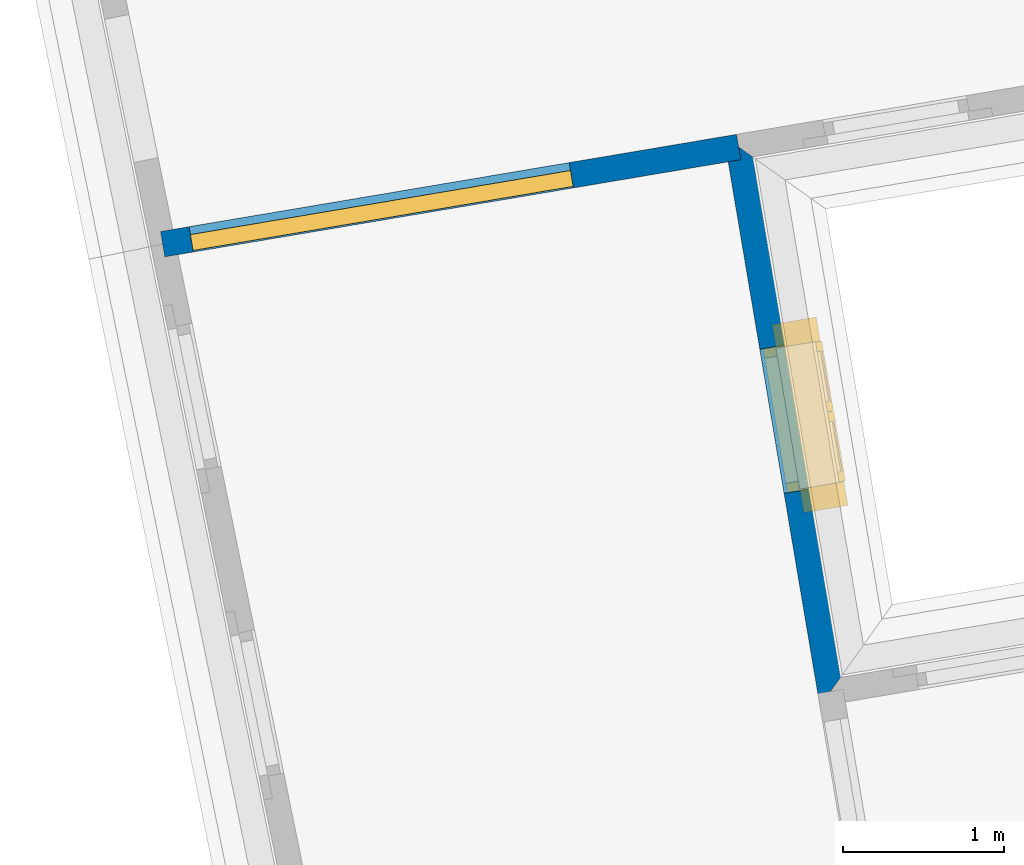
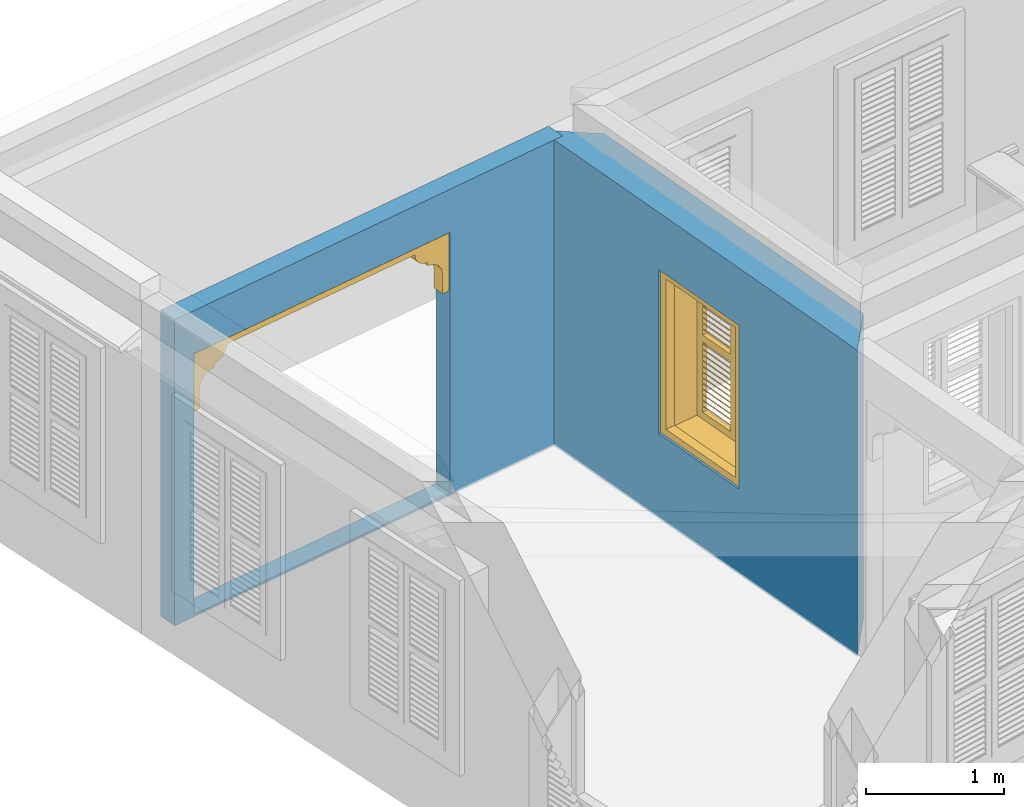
# One storey, part 4 of 12: 2 walls, 1 door, 1 window, 2 openings.
"""IFC4 building model written with IfcOpenShell, lengths in metres."""

from ifc_helpers import new_model, si_unit, frame, origin, origin_with_axes, place, context, subcontext, project, spatial, polyline, outline, extrude, faceted_brep, source, transform, mapped, material, layer, layer_set, layer_usage, type_object, type_shapes, element, fill, save


model = new_model("IFC4")

# Units and contexts
model_context = context("Model", 3, world=origin_with_axes())
body_context = subcontext(model_context, "Body", "Model", "MODEL_VIEW")
ifc_project = project(units=[si_unit("PLANEANGLEUNIT", "RADIAN"), si_unit("MASSUNIT", "GRAM", prefix="KILO"), si_unit("FORCEUNIT", "NEWTON", prefix="KILO"), si_unit("LENGTHUNIT", "METRE"), si_unit("AREAUNIT", "SQUARE_METRE"), si_unit("VOLUMEUNIT", "CUBIC_METRE")], contexts=[model_context, model_context])

# Site, building, storey
site_placement = place(None, origin_with_axes())
site = spatial("IfcSite", under=ifc_project, at=site_placement, Name="Site plot-6", CompositionType="ELEMENT")
building_placement = place(None, origin_with_axes())
building = spatial("IfcBuilding", under=site, at=building_placement, Name="Building plot-6", CompositionType="ELEMENT")
storey_placement = place(None, frame((0.0, 0.0, 3.6), z_axis=(0.0, 0.0, 1.0), x_axis=(1.0, 0.0, 0.0)))
storey = spatial("IfcBuildingStorey", under=building, at=storey_placement, Name="plot-6 1", CompositionType="ELEMENT", Elevation=3.6)

# Wall, opening, window
ifc_material_1 = material(Name="Masonry")
ifc_layer_1 = layer(ifc_material_1, 0.33, ventilated=False)
ifc_layer_set_1 = layer_set([ifc_layer_1], Name="exterior_0.08_0.25")
ifc_layer_usage_1 = layer_usage(ifc_layer_set_1, "AXIS2", "POSITIVE", -0.25)
wall_type_1 = type_object("IfcWallType", Name="exterior_0.08_0.25", PredefinedType="SOLIDWALL", material=ifc_layer_set_1)
wall_1_placement = place(storey_placement, frame((-6.37480768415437, -0.724200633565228, 0.0), z_axis=(0.0, 0.0, 1.0), x_axis=(-0.166292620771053, 0.986076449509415, 0.0)))
wall_1 = element("IfcWall", 1, at=wall_1_placement, inside=storey, type_object=wall_type_1, material=ifc_layer_usage_1, Name="exterior", context=body_context, shape_type="SweptSolid", body=[
    extrude(outline(polyline([(-0.0800000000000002, 0.0799999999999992), (0.25, -0.25), (3.1871885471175, -0.249999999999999), (3.51718854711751, 0.0799999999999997), (-0.0800000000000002, 0.0799999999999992)])), origin_with_axes(), (0.0, 0.0, 1.0), 2.7),
])
opening_1_placement = place(wall_1_placement, frame((1.26359427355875, 0.0, 0.75)))
opening_1 = element("IfcOpeningElement", 2, at=opening_1_placement, cuts=wall_1, Name="My Opening", ObjectType="Opening", context=body_context, shape_type="SweptSolid", body=[
    extrude(outline(polyline([(0.0, -0.27), (0.909999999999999, -0.27), (0.91, 1.1), (0.0, 1.1), (0.0, -0.27)])), origin_with_axes(), (0.0, 0.0, 1.0), 1.445),
])
window_type = type_object("IfcWindowType", Name="shuttered_shorter", PartitioningType="DOUBLE_PANEL_HORIZONTAL", PredefinedType="NOTDEFINED")
shared_shape_1 = source(origin(), body_context, "Body", "Brep", [
    faceted_brep([(0.393, 0.0, 0.622), (0.074, 0.0, 0.622), (0.074, 0.0, 0.632), (0.393, 0.0, 0.632), (0.074, -0.04, 0.592), (0.393, -0.04, 0.592), (0.393, -0.04, 0.582), (0.074, -0.04, 0.582), (0.517, 0.0, 0.682), (0.836, 0.0, 0.682), (0.836, 0.0, 0.672), (0.517, 0.0, 0.672), (0.517, -0.04, 0.642), (0.836, -0.04, 0.642), (0.836, -0.04, 0.632), (0.517, -0.04, 0.632), (0.517, 0.0, 0.632), (0.836, 0.0, 0.632), (0.836, 0.0, 0.622), (0.517, 0.0, 0.622), (0.517, -0.04, 0.592), (0.836, -0.04, 0.592), (0.836, -0.04, 0.582), (0.517, -0.04, 0.582), (0.517, 0.0, 0.232), (0.836, 0.0, 0.232), (0.836, 0.0, 0.222), (0.517, 0.0, 0.222), (0.517, -0.04, 0.192), (0.836, -0.04, 0.192), (0.836, -0.04, 0.182), (0.517, -0.04, 0.182), (0.517, 0.0, 0.532), (0.836, 0.0, 0.532), (0.836, 0.0, 0.522), (0.517, 0.0, 0.522), (0.517, -0.04, 0.492), (0.836, -0.04, 0.492), (0.836, -0.04, 0.482), (0.517, -0.04, 0.482), (0.517, 0.0, 0.482), (0.836, 0.0, 0.482), (0.836, 0.0, 0.472), (0.517, 0.0, 0.472), (0.517, -0.04, 0.442), (0.836, -0.04, 0.442), (0.836, -0.04, 0.432), (0.517, -0.04, 0.432), (0.517, 0.0, 0.582), (0.836, 0.0, 0.582), (0.836, 0.0, 0.572), (0.517, 0.0, 0.572), (0.517, -0.04, 0.542), (0.836, -0.04, 0.542), (0.836, -0.04, 0.532), (0.517, -0.04, 0.532), (0.517, 0.0, 0.182), (0.836, 0.0, 0.182), (0.836, 0.0, 0.172), (0.517, 0.0, 0.172), (0.517, -0.04, 0.142), (0.836, -0.04, 0.142), (0.836, -0.04, 0.132), (0.517, -0.04, 0.132), (0.517, 0.0, 0.382), (0.836, 0.0, 0.382), (0.836, 0.0, 0.372), (0.517, 0.0, 0.372), (0.517, -0.04, 0.342), (0.836, -0.04, 0.342), (0.836, -0.04, 0.332), (0.517, -0.04, 0.332), (0.517, 0.0, 0.432), (0.836, 0.0, 0.432), (0.836, 0.0, 0.422), (0.517, 0.0, 0.422), (0.517, -0.04, 0.392), (0.836, -0.04, 0.392), (0.836, -0.04, 0.382), (0.517, -0.04, 0.382), (0.517, 0.0, 0.132), (0.836, 0.0, 0.132), (0.836, 0.0, 0.122), (0.517, 0.0, 0.122), (0.517, -0.04, 0.092), (0.836, -0.04, 0.092), (0.836, -0.04, 0.082), (0.517, -0.04, 0.082), (0.517, 0.0, 0.282), (0.836, 0.0, 0.282), (0.836, 0.0, 0.272), (0.517, 0.0, 0.272), (0.517, -0.04, 0.242), (0.836, -0.04, 0.242), (0.836, -0.04, 0.232), (0.517, -0.04, 0.232), (0.517, 0.0, 0.332), (0.836, 0.0, 0.332), (0.836, 0.0, 0.322), (0.517, 0.0, 0.322), (0.517, -0.04, 0.292), (0.836, -0.04, 0.292), (0.836, -0.04, 0.282), (0.517, -0.04, 0.282), (0.517, 0.0, 1.362667), (0.836, 0.0, 1.362667), (0.836, 0.0, 1.352667), (0.517, 0.0, 1.352667), (0.517, -0.04, 1.322667), (0.836, -0.04, 1.322667), (0.836, -0.04, 1.312667), (0.517, -0.04, 1.312667), (0.517, 0.0, 1.312667), (0.836, 0.0, 1.312667), (0.836, 0.0, 1.302667), (0.517, 0.0, 1.302667), (0.517, -0.04, 1.272667), (0.836, -0.04, 1.272667), (0.836, -0.04, 1.262667), (0.517, -0.04, 1.262667), (0.517, 0.0, 0.912667), (0.836, 0.0, 0.912667), (0.836, 0.0, 0.902667), (0.517, 0.0, 0.902667), (0.517, -0.04, 0.872667), (0.836, -0.04, 0.872667), (0.836, -0.04, 0.862667), (0.517, -0.04, 0.862667), (0.517, 0.0, 1.212667), (0.836, 0.0, 1.212667), (0.836, 0.0, 1.202667), (0.517, 0.0, 1.202667), (0.517, -0.04, 1.172667), (0.836, -0.04, 1.172667), (0.836, -0.04, 1.162667), (0.517, -0.04, 1.162667), (0.517, 0.0, 1.162667), (0.836, 0.0, 1.162667), (0.836, 0.0, 1.152667), (0.517, 0.0, 1.152667), (0.517, -0.04, 1.122667), (0.836, -0.04, 1.122667), (0.836, -0.04, 1.112667), (0.517, -0.04, 1.112667), (0.517, 0.0, 1.262667), (0.836, 0.0, 1.262667), (0.836, 0.0, 1.252667), (0.517, 0.0, 1.252667), (0.517, -0.04, 1.222667), (0.836, -0.04, 1.222667), (0.836, -0.04, 1.212667), (0.517, -0.04, 1.212667), (0.517, 0.0, 0.862667), (0.836, 0.0, 0.862667), (0.836, 0.0, 0.852667), (0.517, 0.0, 0.852667), (0.517, -0.04, 0.822667), (0.836, -0.04, 0.822667), (0.836, -0.04, 0.812667), (0.517, -0.04, 0.812667), (0.517, 0.0, 1.062667), (0.836, 0.0, 1.062667), (0.836, 0.0, 1.052667), (0.517, 0.0, 1.052667), (0.517, -0.04, 1.022667), (0.836, -0.04, 1.022667), (0.836, -0.04, 1.012667), (0.517, -0.04, 1.012667), (0.517, 0.0, 1.112667), (0.836, 0.0, 1.112667), (0.836, 0.0, 1.102667), (0.517, 0.0, 1.102667), (0.517, -0.04, 1.072667), (0.836, -0.04, 1.072667), (0.836, -0.04, 1.062667), (0.517, -0.04, 1.062667), (0.517, 0.0, 0.812667), (0.836, 0.0, 0.812667), (0.836, 0.0, 0.802667), (0.517, 0.0, 0.802667), (0.517, -0.04, 0.772667), (0.836, -0.04, 0.772667), (0.836, -0.04, 0.762667), (0.517, -0.04, 0.762667), (0.517, 0.0, 0.962667), (0.836, 0.0, 0.962667), (0.836, 0.0, 0.952667), (0.517, 0.0, 0.952667), (0.517, -0.04, 0.922667), (0.836, -0.04, 0.922667), (0.836, -0.04, 0.912667), (0.517, -0.04, 0.912667), (0.517, 0.0, 1.012667), (0.836, 0.0, 1.012667), (0.836, 0.0, 1.002667), (0.517, 0.0, 1.002667), (0.517, -0.04, 0.972667), (0.836, -0.04, 0.972667), (0.836, -0.04, 0.962667), (0.517, -0.04, 0.962667), (0.074, 0.0, 0.682), (0.393, 0.0, 0.682), (0.393, 0.0, 0.672), (0.074, 0.0, 0.672), (0.074, -0.04, 0.642), (0.393, -0.04, 0.642), (0.393, -0.04, 0.632), (0.074, -0.04, 0.632), (0.074, 0.0, 0.232), (0.393, 0.0, 0.232), (0.393, 0.0, 0.222), (0.074, 0.0, 0.222), (0.074, -0.04, 0.192), (0.393, -0.04, 0.192), (0.393, -0.04, 0.182), (0.074, -0.04, 0.182), (0.074, 0.0, 0.532), (0.393, 0.0, 0.532), (0.393, 0.0, 0.522), (0.074, 0.0, 0.522), (0.074, -0.04, 0.492), (0.393, -0.04, 0.492), (0.393, -0.04, 0.482), (0.074, -0.04, 0.482), (0.074, 0.0, 0.482), (0.393, 0.0, 0.482), (0.393, 0.0, 0.472), (0.074, 0.0, 0.472), (0.074, -0.04, 0.442), (0.393, -0.04, 0.442), (0.393, -0.04, 0.432), (0.074, -0.04, 0.432), (0.074, 0.0, 0.582), (0.393, 0.0, 0.582), (0.393, 0.0, 0.572), (0.074, 0.0, 0.572), (0.074, -0.04, 0.542), (0.393, -0.04, 0.542), (0.393, -0.04, 0.532), (0.074, -0.04, 0.532), (0.074, 0.0, 0.182), (0.393, 0.0, 0.182), (0.393, 0.0, 0.172), (0.074, 0.0, 0.172), (0.074, -0.04, 0.142), (0.393, -0.04, 0.142), (0.393, -0.04, 0.132), (0.074, -0.04, 0.132), (0.074, 0.0, 0.382), (0.393, 0.0, 0.382), (0.393, 0.0, 0.372), (0.074, 0.0, 0.372), (0.074, -0.04, 0.342), (0.393, -0.04, 0.342), (0.393, -0.04, 0.332), (0.074, -0.04, 0.332), (0.074, 0.0, 0.432), (0.393, 0.0, 0.432), (0.393, 0.0, 0.422), (0.074, 0.0, 0.422), (0.074, -0.04, 0.392), (0.393, -0.04, 0.392), (0.393, -0.04, 0.382), (0.074, -0.04, 0.382), (0.074, 0.0, 0.132), (0.393, 0.0, 0.132), (0.393, 0.0, 0.122), (0.074, 0.0, 0.122), (0.074, -0.04, 0.092), (0.393, -0.04, 0.092), (0.393, -0.04, 0.082), (0.074, -0.04, 0.082), (0.074, 0.0, 0.282), (0.393, 0.0, 0.282), (0.393, 0.0, 0.272), (0.074, 0.0, 0.272), (0.074, -0.04, 0.242), (0.393, -0.04, 0.242), (0.393, -0.04, 0.232), (0.074, -0.04, 0.232), (0.074, 0.0, 0.332), (0.393, 0.0, 0.332), (0.393, 0.0, 0.322), (0.074, 0.0, 0.322), (0.074, -0.04, 0.292), (0.393, -0.04, 0.292), (0.393, -0.04, 0.282), (0.074, -0.04, 0.282), (0.074, 0.0, 1.362667), (0.393, 0.0, 1.362667), (0.393, 0.0, 1.352667), (0.074, 0.0, 1.352667), (0.074, -0.04, 1.322667), (0.393, -0.04, 1.322667), (0.393, -0.04, 1.312667), (0.074, -0.04, 1.312667), (0.074, 0.0, 1.312667), (0.393, 0.0, 1.312667), (0.393, 0.0, 1.302667), (0.074, 0.0, 1.302667), (0.074, -0.04, 1.272667), (0.393, -0.04, 1.272667), (0.393, -0.04, 1.262667), (0.074, -0.04, 1.262667), (0.074, 0.0, 0.912667), (0.393, 0.0, 0.912667), (0.393, 0.0, 0.902667), (0.074, 0.0, 0.902667), (0.074, -0.04, 0.872667), (0.393, -0.04, 0.872667), (0.393, -0.04, 0.862667), (0.074, -0.04, 0.862667), (0.074, 0.0, 1.212667), (0.393, 0.0, 1.212667), (0.393, 0.0, 1.202667), (0.074, 0.0, 1.202667), (0.074, -0.04, 1.172667), (0.393, -0.04, 1.172667), (0.393, -0.04, 1.162667), (0.074, -0.04, 1.162667), (0.074, 0.0, 1.162667), (0.393, 0.0, 1.162667), (0.393, 0.0, 1.152667), (0.074, 0.0, 1.152667), (0.074, -0.04, 1.122667), (0.393, -0.04, 1.122667), (0.393, -0.04, 1.112667), (0.074, -0.04, 1.112667), (0.074, 0.0, 1.262667), (0.393, 0.0, 1.262667), (0.393, 0.0, 1.252667), (0.074, 0.0, 1.252667), (0.074, -0.04, 1.222667), (0.393, -0.04, 1.222667), (0.393, -0.04, 1.212667), (0.074, -0.04, 1.212667), (0.074, 0.0, 0.862667), (0.393, 0.0, 0.862667), (0.393, 0.0, 0.852667), (0.074, 0.0, 0.852667), (0.074, -0.04, 0.822667), (0.393, -0.04, 0.822667), (0.393, -0.04, 0.812667), (0.074, -0.04, 0.812667), (0.074, 0.0, 1.062667), (0.393, 0.0, 1.062667), (0.393, 0.0, 1.052667), (0.074, 0.0, 1.052667), (0.074, -0.04, 1.022667), (0.393, -0.04, 1.022667), (0.393, -0.04, 1.012667), (0.074, -0.04, 1.012667), (0.074, 0.0, 1.112667), (0.393, 0.0, 1.112667), (0.393, 0.0, 1.102667), (0.074, 0.0, 1.102667), (0.074, -0.04, 1.072667), (0.393, -0.04, 1.072667), (0.393, -0.04, 1.062667), (0.074, -0.04, 1.062667), (0.074, 0.0, 0.812667), (0.393, 0.0, 0.812667), (0.393, 0.0, 0.802667), (0.074, 0.0, 0.802667), (0.074, -0.04, 0.772667), (0.393, -0.04, 0.772667), (0.393, -0.04, 0.762667), (0.074, -0.04, 0.762667), (0.074, 0.0, 0.962667), (0.393, 0.0, 0.962667), (0.393, 0.0, 0.952667), (0.074, 0.0, 0.952667), (0.074, -0.04, 0.922667), (0.393, -0.04, 0.922667), (0.393, -0.04, 0.912667), (0.074, -0.04, 0.912667), (0.074, 0.0, 1.012667), (0.393, 0.0, 1.012667), (0.393, 0.0, 1.002667), (0.074, 0.0, 1.002667), (0.074, -0.04, 0.972667), (0.393, -0.04, 0.972667), (0.393, -0.04, 0.962667), (0.074, -0.04, 0.962667), (0.517, -0.04, 0.072), (0.457, -0.04, 0.012), (0.896, -0.04, 0.012), (0.836, -0.04, 0.072), (0.457, -0.04, 0.692667), (0.517, -0.04, 0.692667), (0.457, 0.0, 0.012), (0.896, 0.0, 0.012), (0.836, -0.04, 0.692667), (0.896, -0.04, 0.692667), (0.836, 0.0, 0.072), (0.517, 0.0, 0.072), (0.457, 0.0, 0.692667), (0.517, 0.0, 0.692667), (0.517, -0.04, 0.752666), (0.457, -0.04, 0.752666), (0.896, 0.0, 0.692667), (0.836, 0.0, 0.692667), (0.836, -0.04, 0.752666), (0.896, -0.04, 0.752666), (0.457, 0.0, 0.752666), (0.457, -0.04, 1.433333), (0.517, -0.04, 1.373333), (0.896, 0.0, 0.752666), (0.836, -0.04, 1.373333), (0.896, -0.04, 1.433333), (0.457, 0.0, 1.433333), (0.517, 0.0, 0.752666), (0.836, 0.0, 0.752666), (0.517, 0.0, 1.373333), (0.896, 0.0, 1.433333), (0.836, 0.0, 1.373333), (0.074, -0.04, 0.072), (0.014, -0.04, 0.012), (0.453, -0.04, 0.012), (0.393, -0.04, 0.072), (0.014, -0.04, 0.692667), (0.074, -0.04, 0.692667), (0.014, 0.0, 0.012), (0.453, 0.0, 0.012), (0.393, -0.04, 0.692667), (0.453, -0.04, 0.692667), (0.393, 0.0, 0.072), (0.074, 0.0, 0.072), (0.014, 0.0, 0.692667), (0.074, 0.0, 0.692667), (0.074, -0.04, 0.752666), (0.014, -0.04, 0.752666), (0.453, 0.0, 0.692667), (0.393, 0.0, 0.692667), (0.393, -0.04, 0.752666), (0.453, -0.04, 0.752666), (0.014, 0.0, 0.752666), (0.014, -0.04, 1.433333), (0.074, -0.04, 1.373333), (0.453, 0.0, 0.752666), (0.393, -0.04, 1.373333), (0.453, -0.04, 1.433333), (0.014, 0.0, 1.433333), (0.074, 0.0, 0.752666), (0.393, 0.0, 0.752666), (0.074, 0.0, 1.373333), (0.453, 0.0, 1.433333), (0.393, 0.0, 1.373333), (0.0, 0.33, 1.445), (0.91, 0.33, 1.445), (0.85, 0.33, 1.385), (0.06, 0.33, 1.385), (0.91, 0.25, 1.445), (0.0, 0.25, 1.445), (0.91, 0.25, 1.445), (0.85, 0.33, 0.06), (0.91, 0.33, 0.0), (0.85, 0.25, 1.385), (0.06, 0.25, 1.385), (0.0, 0.33, 0.0), (0.06, 0.33, 0.06), (0.0, 0.25, 0.0), (0.91, 0.25, 0.0), (0.85, 0.25, 0.06), (0.06, 0.25, 0.06), (1.05, 0.25, 1.585), (-0.14, 0.25, 1.585), (-0.14, -0.03, 1.585), (1.05, -0.03, 1.585), (0.9, -0.03, 1.435), (0.01, -0.03, 1.435), (0.01, 0.25, 1.435), (0.9, 0.25, 1.435), (0.9, 0.25, 0.01), (0.9, -0.03, 0.01), (1.05, -0.03, -0.14), (1.05, 0.25, -0.14), (0.01, -0.03, 0.01), (0.01, 0.25, 0.01), (-0.14, -0.03, -0.14), (-0.14, 0.25, -0.14)], [[[0, 1, 2, 3]], [[4, 5, 3, 2]], [[5, 6, 0, 3]], [[1, 0, 6, 7]], [[2, 1, 7, 4]], [[5, 4, 7, 6]], [[8, 9, 10, 11]], [[12, 13, 9, 8]], [[13, 14, 10, 9]], [[14, 15, 11, 10]], [[15, 12, 8, 11]], [[13, 12, 15, 14]], [[16, 17, 18, 19]], [[20, 21, 17, 16]], [[21, 22, 18, 17]], [[22, 23, 19, 18]], [[23, 20, 16, 19]], [[21, 20, 23, 22]], [[24, 25, 26, 27]], [[28, 29, 25, 24]], [[29, 30, 26, 25]], [[30, 31, 27, 26]], [[31, 28, 24, 27]], [[29, 28, 31, 30]], [[32, 33, 34, 35]], [[36, 37, 33, 32]], [[37, 38, 34, 33]], [[38, 39, 35, 34]], [[39, 36, 32, 35]], [[37, 36, 39, 38]], [[40, 41, 42, 43]], [[44, 45, 41, 40]], [[45, 46, 42, 41]], [[46, 47, 43, 42]], [[47, 44, 40, 43]], [[45, 44, 47, 46]], [[48, 49, 50, 51]], [[52, 53, 49, 48]], [[53, 54, 50, 49]], [[54, 55, 51, 50]], [[55, 52, 48, 51]], [[53, 52, 55, 54]], [[56, 57, 58, 59]], [[60, 61, 57, 56]], [[61, 62, 58, 57]], [[62, 63, 59, 58]], [[63, 60, 56, 59]], [[61, 60, 63, 62]], [[64, 65, 66, 67]], [[68, 69, 65, 64]], [[69, 70, 66, 65]], [[70, 71, 67, 66]], [[71, 68, 64, 67]], [[69, 68, 71, 70]], [[72, 73, 74, 75]], [[76, 77, 73, 72]], [[77, 78, 74, 73]], [[78, 79, 75, 74]], [[79, 76, 72, 75]], [[77, 76, 79, 78]], [[80, 81, 82, 83]], [[84, 85, 81, 80]], [[85, 86, 82, 81]], [[86, 87, 83, 82]], [[87, 84, 80, 83]], [[85, 84, 87, 86]], [[88, 89, 90, 91]], [[92, 93, 89, 88]], [[93, 94, 90, 89]], [[94, 95, 91, 90]], [[95, 92, 88, 91]], [[93, 92, 95, 94]], [[96, 97, 98, 99]], [[100, 101, 97, 96]], [[101, 102, 98, 97]], [[102, 103, 99, 98]], [[103, 100, 96, 99]], [[101, 100, 103, 102]], [[104, 105, 106, 107]], [[108, 109, 105, 104]], [[109, 110, 106, 105]], [[110, 111, 107, 106]], [[111, 108, 104, 107]], [[109, 108, 111, 110]], [[112, 113, 114, 115]], [[116, 117, 113, 112]], [[117, 118, 114, 113]], [[118, 119, 115, 114]], [[119, 116, 112, 115]], [[117, 116, 119, 118]], [[120, 121, 122, 123]], [[124, 125, 121, 120]], [[125, 126, 122, 121]], [[126, 127, 123, 122]], [[127, 124, 120, 123]], [[125, 124, 127, 126]], [[128, 129, 130, 131]], [[132, 133, 129, 128]], [[133, 134, 130, 129]], [[134, 135, 131, 130]], [[135, 132, 128, 131]], [[133, 132, 135, 134]], [[136, 137, 138, 139]], [[140, 141, 137, 136]], [[141, 142, 138, 137]], [[142, 143, 139, 138]], [[139, 143, 140, 136]], [[141, 140, 143, 142]], [[144, 145, 146, 147]], [[148, 149, 145, 144]], [[149, 150, 146, 145]], [[150, 151, 147, 146]], [[151, 148, 144, 147]], [[149, 148, 151, 150]], [[152, 153, 154, 155]], [[156, 157, 153, 152]], [[157, 158, 154, 153]], [[158, 159, 155, 154]], [[159, 156, 152, 155]], [[157, 156, 159, 158]], [[160, 161, 162, 163]], [[164, 165, 161, 160]], [[165, 166, 162, 161]], [[166, 167, 163, 162]], [[167, 164, 160, 163]], [[165, 164, 167, 166]], [[168, 169, 170, 171]], [[172, 173, 169, 168]], [[173, 174, 170, 169]], [[174, 175, 171, 170]], [[175, 172, 168, 171]], [[173, 172, 175, 174]], [[176, 177, 178, 179]], [[180, 181, 177, 176]], [[181, 182, 178, 177]], [[182, 183, 179, 178]], [[183, 180, 176, 179]], [[181, 180, 183, 182]], [[184, 185, 186, 187]], [[188, 189, 185, 184]], [[189, 190, 186, 185]], [[190, 191, 187, 186]], [[191, 188, 184, 187]], [[189, 188, 191, 190]], [[192, 193, 194, 195]], [[196, 197, 193, 192]], [[197, 198, 194, 193]], [[198, 199, 195, 194]], [[199, 196, 192, 195]], [[197, 196, 199, 198]], [[200, 201, 202, 203]], [[204, 205, 201, 200]], [[205, 206, 202, 201]], [[206, 207, 203, 202]], [[207, 204, 200, 203]], [[205, 204, 207, 206]], [[208, 209, 210, 211]], [[212, 213, 209, 208]], [[213, 214, 210, 209]], [[214, 215, 211, 210]], [[215, 212, 208, 211]], [[213, 212, 215, 214]], [[216, 217, 218, 219]], [[220, 221, 217, 216]], [[221, 222, 218, 217]], [[222, 223, 219, 218]], [[223, 220, 216, 219]], [[221, 220, 223, 222]], [[224, 225, 226, 227]], [[228, 229, 225, 224]], [[229, 230, 226, 225]], [[230, 231, 227, 226]], [[231, 228, 224, 227]], [[229, 228, 231, 230]], [[232, 233, 234, 235]], [[236, 237, 233, 232]], [[237, 238, 234, 233]], [[238, 239, 235, 234]], [[239, 236, 232, 235]], [[237, 236, 239, 238]], [[240, 241, 242, 243]], [[244, 245, 241, 240]], [[245, 246, 242, 241]], [[246, 247, 243, 242]], [[247, 244, 240, 243]], [[245, 244, 247, 246]], [[248, 249, 250, 251]], [[252, 253, 249, 248]], [[253, 254, 250, 249]], [[254, 255, 251, 250]], [[255, 252, 248, 251]], [[253, 252, 255, 254]], [[256, 257, 258, 259]], [[260, 261, 257, 256]], [[261, 262, 258, 257]], [[262, 263, 259, 258]], [[263, 260, 256, 259]], [[261, 260, 263, 262]], [[264, 265, 266, 267]], [[268, 269, 265, 264]], [[269, 270, 266, 265]], [[270, 271, 267, 266]], [[271, 268, 264, 267]], [[269, 268, 271, 270]], [[272, 273, 274, 275]], [[276, 277, 273, 272]], [[277, 278, 274, 273]], [[278, 279, 275, 274]], [[279, 276, 272, 275]], [[277, 276, 279, 278]], [[280, 281, 282, 283]], [[284, 285, 281, 280]], [[285, 286, 282, 281]], [[286, 287, 283, 282]], [[287, 284, 280, 283]], [[285, 284, 287, 286]], [[288, 289, 290, 291]], [[292, 293, 289, 288]], [[293, 294, 290, 289]], [[294, 295, 291, 290]], [[295, 292, 288, 291]], [[293, 292, 295, 294]], [[296, 297, 298, 299]], [[300, 301, 297, 296]], [[301, 302, 298, 297]], [[302, 303, 299, 298]], [[303, 300, 296, 299]], [[301, 300, 303, 302]], [[304, 305, 306, 307]], [[308, 309, 305, 304]], [[309, 310, 306, 305]], [[310, 311, 307, 306]], [[311, 308, 304, 307]], [[309, 308, 311, 310]], [[312, 313, 314, 315]], [[316, 317, 313, 312]], [[317, 318, 314, 313]], [[318, 319, 315, 314]], [[319, 316, 312, 315]], [[317, 316, 319, 318]], [[320, 321, 322, 323]], [[324, 325, 321, 320]], [[325, 326, 322, 321]], [[326, 327, 323, 322]], [[327, 324, 320, 323]], [[325, 324, 327, 326]], [[328, 329, 330, 331]], [[332, 333, 329, 328]], [[333, 334, 330, 329]], [[334, 335, 331, 330]], [[335, 332, 328, 331]], [[333, 332, 335, 334]], [[336, 337, 338, 339]], [[340, 341, 337, 336]], [[341, 342, 338, 337]], [[342, 343, 339, 338]], [[343, 340, 336, 339]], [[341, 340, 343, 342]], [[344, 345, 346, 347]], [[348, 349, 345, 344]], [[349, 350, 346, 345]], [[350, 351, 347, 346]], [[351, 348, 344, 347]], [[349, 348, 351, 350]], [[352, 353, 354, 355]], [[356, 357, 353, 352]], [[357, 358, 354, 353]], [[358, 359, 355, 354]], [[359, 356, 352, 355]], [[357, 356, 359, 358]], [[360, 361, 362, 363]], [[364, 365, 361, 360]], [[365, 366, 362, 361]], [[366, 367, 363, 362]], [[367, 364, 360, 363]], [[365, 364, 367, 366]], [[368, 369, 370, 371]], [[372, 373, 369, 368]], [[373, 374, 370, 369]], [[374, 375, 371, 370]], [[375, 372, 368, 371]], [[373, 372, 375, 374]], [[376, 377, 378, 379]], [[380, 381, 377, 376]], [[381, 382, 378, 377]], [[382, 383, 379, 378]], [[383, 380, 376, 379]], [[381, 380, 383, 382]], [[384, 385, 386, 387]], [[388, 385, 384, 389]], [[390, 391, 386, 385]], [[392, 387, 386, 393]], [[384, 387, 394, 395]], [[390, 385, 388, 396]], [[389, 384, 395, 397]], [[389, 398, 399, 388]], [[390, 395, 394, 391]], [[400, 393, 386, 391]], [[387, 392, 401, 394]], [[402, 392, 393, 403]], [[396, 388, 399, 404]], [[390, 396, 397, 395]], [[392, 389, 397, 401]], [[398, 389, 392, 402]], [[405, 399, 398, 406]], [[394, 401, 400, 391]], [[407, 403, 393, 400]], [[408, 402, 403, 409]], [[404, 399, 405, 410]], [[411, 397, 396, 404]], [[397, 411, 412, 401]], [[398, 402, 412, 411]], [[406, 398, 411, 413]], [[405, 406, 408, 409]], [[401, 412, 407, 400]], [[414, 409, 403, 407]], [[402, 408, 415, 412]], [[405, 409, 414, 410]], [[404, 410, 413, 411]], [[408, 406, 413, 415]], [[412, 415, 414, 407]], [[413, 410, 414, 415]], [[416, 417, 418, 419]], [[420, 417, 416, 421]], [[422, 423, 418, 417]], [[424, 419, 418, 425]], [[416, 419, 426, 427]], [[422, 417, 420, 428]], [[421, 416, 427, 429]], [[421, 430, 431, 420]], [[422, 427, 426, 423]], [[432, 425, 418, 423]], [[419, 424, 433, 426]], [[434, 424, 425, 435]], [[428, 420, 431, 436]], [[422, 428, 429, 427]], [[424, 421, 429, 433]], [[430, 421, 424, 434]], [[437, 431, 430, 438]], [[426, 433, 432, 423]], [[439, 435, 425, 432]], [[440, 434, 435, 441]], [[436, 431, 437, 442]], [[443, 429, 428, 436]], [[429, 443, 444, 433]], [[430, 434, 444, 443]], [[438, 430, 443, 445]], [[437, 438, 440, 441]], [[433, 444, 439, 432]], [[446, 441, 435, 439]], [[434, 440, 447, 444]], [[437, 441, 446, 442]], [[436, 442, 445, 443]], [[440, 438, 445, 447]], [[444, 447, 446, 439]], [[445, 442, 446, 447]], [[448, 449, 450, 451]], [[452, 449, 448]], [[448, 453, 454]], [[448, 454, 452]], [[455, 450, 449, 456]], [[451, 450, 457, 458]], [[459, 448, 451, 460]], [[448, 459, 461, 453]], [[454, 453, 458, 457]], [[462, 452, 454]], [[454, 457, 463]], [[454, 463, 462]], [[456, 449, 452, 462]], [[450, 455, 463, 457]], [[456, 459, 460, 455]], [[460, 451, 458, 464]], [[459, 456, 462, 461]], [[464, 458, 453, 461]], [[461, 462, 463, 464]], [[455, 460, 464, 463]], [[465, 466, 467, 468]], [[469, 470, 471, 472]], [[473, 474, 469, 472]], [[465, 468, 475, 476]], [[470, 477, 478, 471]], [[474, 473, 478, 477]], [[474, 477, 479, 475]], [[470, 467, 479, 477]], [[470, 469, 468, 467]], [[474, 475, 468, 469]], [[471, 478, 480, 466]], [[473, 472, 465, 476]], [[473, 476, 480, 478]], [[466, 465, 472, 471]], [[480, 476, 475, 479]], [[480, 479, 467, 466]]]),
])
type_shapes(window_type, [shared_shape_1])
window_placement = place(storey_placement, frame((-6.31869344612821, 0.566698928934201, 0.75), z_axis=(0.0, 0.0, 1.0), x_axis=(-0.151326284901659, 0.897329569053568, 0.0)))
window = element("IfcWindow", 3, at=window_placement, inside=storey, type_object=window_type, Name="living sahn window", OverallHeight=1.445, OverallWidth=0.91, context=body_context, shape_type="MappedRepresentation", body=[
    mapped(shared_shape_1, transform((0.0, 0.0, 0.0), scale=1.0)),
])
fill(opening_1, window)

# Wall, opening, door
ifc_material_2 = material(Name="Masonry")
ifc_layer_2 = layer(ifc_material_2, 0.16, ventilated=False)
ifc_layer_set_2 = layer_set([ifc_layer_2], Name="interior_0.08_0.08")
ifc_layer_usage_2 = layer_usage(ifc_layer_set_2, "AXIS2", "POSITIVE", -0.08)
wall_type_2 = type_object("IfcWallType", Name="interior_0.08_0.08", PredefinedType="SOLIDWALL", material=ifc_layer_set_2)
wall_2_placement = place(storey_placement, frame((-10.5327129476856, 2.06032949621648, 0.0), z_axis=(0.0, 0.0, 1.0), x_axis=(0.986076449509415, 0.166292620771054, 0.0)))
wall_2 = element("IfcWall", 4, at=wall_2_placement, inside=storey, type_object=wall_type_2, material=ifc_layer_usage_2, Name="interior", context=body_context, shape_type="SweptSolid", body=[
    extrude(outline(polyline([(-2.61554938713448e-16, 0.0800000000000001), (2.71352113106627e-16, -0.0800000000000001), (3.63696564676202, -0.0800000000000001), (3.63696564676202, 0.0800000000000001), (-2.61554938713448e-16, 0.0800000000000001)])), origin_with_axes(), (0.0, 0.0, 1.0), 2.7),
])
opening_2_placement = place(wall_2_placement, frame((0.179999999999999, 0.0, 0.02)))
opening_2 = element("IfcOpeningElement", 5, at=opening_2_placement, cuts=wall_2, Name="My Opening", ObjectType="Opening", context=body_context, shape_type="SweptSolid", body=[
    extrude(outline(polyline([(0.0, -0.0999999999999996), (2.4, -0.1), (2.4, 1.1), (1.11022302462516e-15, 1.1), (0.0, -0.0999999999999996)])), origin_with_axes(), (0.0, 0.0, 1.0), 2.3),
])
door_type = type_object("IfcDoorType", Name="arch-2400x2300-thin", OperationType="SINGLE_SWING_LEFT", PredefinedType="NOTDEFINED")
shared_shape_2 = source(origin(), body_context, "Body", "Brep", [
    faceted_brep([(2.4, 0.03, 1.78), (2.4, 0.03, 1.95), (2.34, 0.03, 1.95), (2.34, 0.03, 1.78), (2.34, 0.13, 1.95), (2.34, 0.13, 1.78), (2.4, 0.03, 2.12), (2.329, 0.03, 2.004), (2.4, 0.13, 1.78), (2.4, 0.13, 1.95), (2.329, 0.13, 2.004), (2.299, 0.03, 2.049), (2.4, 0.13, 2.12), (2.299, 0.13, 2.049), (2.254, 0.03, 2.079), (2.4, 0.13, 2.29), (2.4, 0.03, 2.29), (2.254, 0.13, 2.079), (2.2, 0.03, 2.09), (2.2, 0.03, 2.12), (2.154, 0.03, 2.129), (2.08, 0.13, 2.29), (2.08, 0.03, 2.29), (2.2, 0.13, 2.12), (2.154, 0.13, 2.129), (2.2, 0.13, 2.09), (2.115, 0.03, 2.155), (2.089, 0.13, 2.194), (2.08, 0.13, 2.24), (2.08, 0.03, 2.24), (2.089, 0.03, 2.194), (2.115, 0.13, 2.155), (0.06, 0.03, 1.78), (0.06, 0.03, 1.95), (0.0, 0.03, 1.95), (0.0, 0.03, 1.78), (0.06, 0.13, 1.78), (0.06, 0.13, 1.95), (0.071, 0.03, 2.004), (0.0, 0.03, 2.12), (0.0, 0.13, 1.95), (0.0, 0.13, 1.78), (0.071, 0.13, 2.004), (0.101, 0.03, 2.049), (0.0, 0.13, 2.12), (0.101, 0.13, 2.049), (0.146, 0.03, 2.079), (0.0, 0.03, 2.29), (0.0, 0.13, 2.29), (0.146, 0.13, 2.079), (0.2, 0.03, 2.12), (0.2, 0.03, 2.09), (0.246, 0.03, 2.129), (0.32, 0.03, 2.29), (0.32, 0.13, 2.29), (0.246, 0.13, 2.129), (0.2, 0.13, 2.12), (0.2, 0.13, 2.09), (0.285, 0.03, 2.155), (0.32, 0.13, 2.24), (0.311, 0.13, 2.194), (0.311, 0.03, 2.194), (0.32, 0.03, 2.24), (0.285, 0.13, 2.155)], [[[0, 1, 2, 3]], [[4, 5, 3, 2]], [[1, 6, 7, 2]], [[1, 0, 8, 9]], [[5, 8, 0, 3]], [[5, 4, 9, 8]], [[10, 4, 2, 7]], [[6, 11, 7]], [[6, 1, 9, 12]], [[4, 10, 12, 9]], [[13, 10, 7, 11]], [[6, 14, 11]], [[12, 15, 16, 6]], [[12, 10, 13]], [[17, 13, 11, 14]], [[18, 14, 6, 19]], [[6, 16, 20, 19]], [[16, 15, 21, 22]], [[23, 24, 15, 12]], [[12, 13, 17]], [[25, 17, 14, 18]], [[23, 25, 18, 19]], [[24, 23, 19, 20]], [[16, 26, 20]], [[15, 27, 28, 21]], [[16, 22, 29, 30]], [[31, 15, 24]], [[23, 12, 17, 25]], [[31, 24, 20, 26]], [[16, 30, 26]], [[28, 27, 30, 29]], [[27, 15, 31]], [[27, 31, 26, 30]], [[32, 33, 34, 35]], [[33, 32, 36, 37]], [[33, 38, 39, 34]], [[35, 34, 40, 41]], [[32, 35, 41, 36]], [[41, 40, 37, 36]], [[38, 33, 37, 42]], [[38, 43, 39]], [[44, 40, 34, 39]], [[40, 44, 42, 37]], [[43, 38, 42, 45]], [[43, 46, 39]], [[39, 47, 48, 44]], [[45, 42, 44]], [[46, 43, 45, 49]], [[50, 39, 46, 51]], [[50, 52, 47, 39]], [[53, 54, 48, 47]], [[44, 48, 55, 56]], [[49, 45, 44]], [[51, 46, 49, 57]], [[50, 51, 57, 56]], [[52, 50, 56, 55]], [[52, 58, 47]], [[54, 59, 60, 48]], [[61, 62, 53, 47]], [[55, 48, 63]], [[57, 49, 44, 56]], [[58, 52, 55, 63]], [[58, 61, 47]], [[62, 61, 60, 59]], [[63, 48, 60]], [[61, 58, 63, 60]], [[62, 59, 28, 29]], [[59, 54, 21, 28]], [[53, 62, 29, 22]], [[54, 53, 22, 21]]]),
])
type_shapes(door_type, [shared_shape_2])
door_placement = place(storey_placement, frame((-10.3385899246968, 1.99165452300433, 0.02), z_axis=(0.0, 0.0, 1.0), x_axis=(2.3665834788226, 0.39910228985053, 0.0)))
door = element("IfcDoor", 6, at=door_placement, inside=storey, type_object=door_type, Name="living inside door", OverallHeight=2.3, OverallWidth=2.4, context=body_context, shape_type="MappedRepresentation", body=[
    mapped(shared_shape_2, transform((0.0, 0.0, 0.0), scale=1.0)),
])
fill(opening_2, door)

save(model, "model.ifc")
